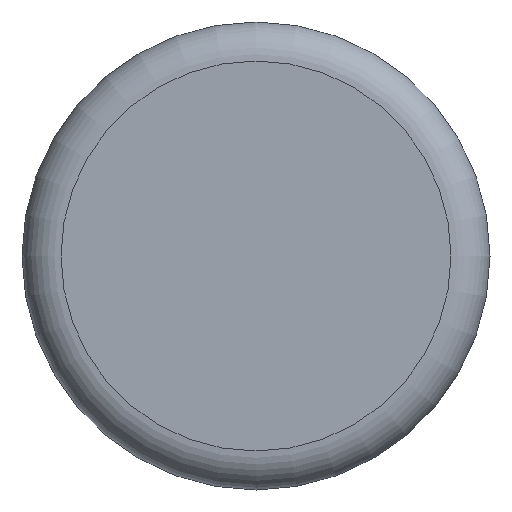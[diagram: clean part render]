
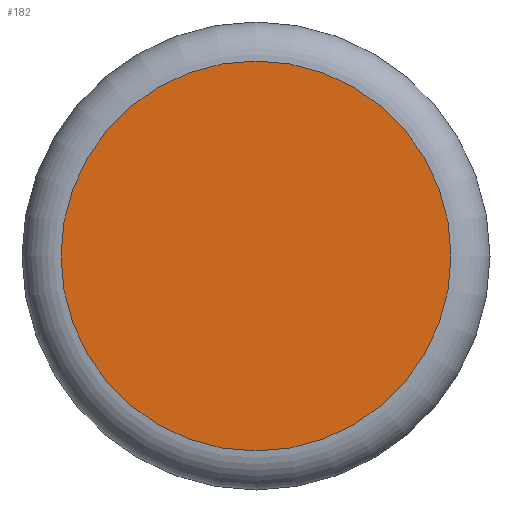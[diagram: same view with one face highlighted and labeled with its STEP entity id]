
A CAD part, front view. The second image highlights one B-rep face of the part: STEP entity #182.
In plain terms, the highlighted planar face has unit normal (0, -1, 0).
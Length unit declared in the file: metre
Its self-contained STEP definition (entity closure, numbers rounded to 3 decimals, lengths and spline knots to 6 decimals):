
#44=FACE_OUTER_BOUND('',#54,.T.);
#54=EDGE_LOOP('',(#169,#170));
#73=CIRCLE('',#230,0.05);
#74=CIRCLE('',#231,0.05);
#91=VERTEX_POINT('',#350);
#92=VERTEX_POINT('',#351);
#116=EDGE_CURVE('',#91,#92,#73,.T.);
#117=EDGE_CURVE('',#92,#91,#74,.T.);
#169=ORIENTED_EDGE('',*,*,#116,.T.);
#170=ORIENTED_EDGE('',*,*,#117,.T.);
#172=PLANE('',#232);
#182=ADVANCED_FACE('',(#44),#172,.F.);
#230=AXIS2_PLACEMENT_3D('',#352,#294,#295);
#231=AXIS2_PLACEMENT_3D('',#353,#296,#297);
#232=AXIS2_PLACEMENT_3D('',#355,#299,#300);
#294=DIRECTION('center_axis',(0.,-1.,0.));
#295=DIRECTION('ref_axis',(0.,0.,-1.));
#296=DIRECTION('center_axis',(0.,-1.,0.));
#297=DIRECTION('ref_axis',(0.,0.,-1.));
#299=DIRECTION('center_axis',(0.,1.,0.));
#300=DIRECTION('ref_axis',(0.,0.,1.));
#350=CARTESIAN_POINT('',(-0.112411,-0.076839,-0.049404));
#351=CARTESIAN_POINT('',(-0.112411,-0.076839,0.050596));
#352=CARTESIAN_POINT('Origin',(-0.112411,-0.076839,0.000596));
#353=CARTESIAN_POINT('Origin',(-0.112411,-0.076839,0.000596));
#355=CARTESIAN_POINT('Origin',(-0.112411,-0.076839,0.000596));
